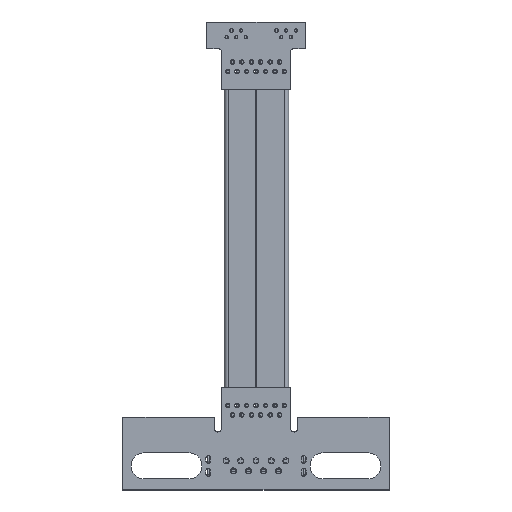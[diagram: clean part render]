
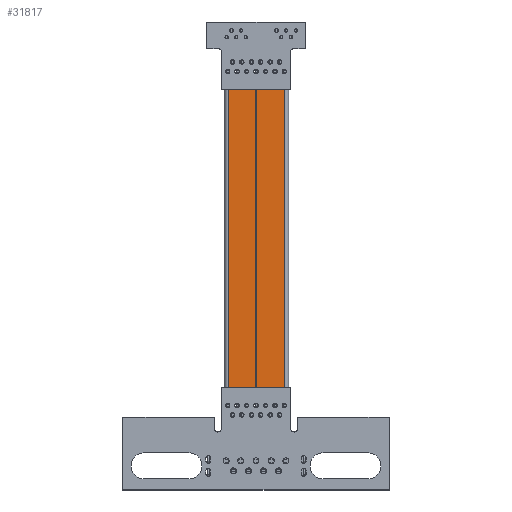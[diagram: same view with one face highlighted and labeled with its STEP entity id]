
A CAD part, top view. The second image highlights one B-rep face of the part: STEP entity #31817.
In plain terms, the highlighted planar face has unit normal (0, 0, 1) as drawn and (0, -1, 0) by its records, which use the part's own axes.
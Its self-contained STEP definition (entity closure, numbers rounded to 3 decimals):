
#31364 = EDGE_CURVE('',#31365,#31367,#31369,.T.);
#31365 = VERTEX_POINT('',#31366);
#31366 = CARTESIAN_POINT('',(-7.621,-1.201,43.));
#31367 = VERTEX_POINT('',#31368);
#31368 = CARTESIAN_POINT('',(-0.001,-1.201,43.));
#31369 = LINE('',#31370,#31371);
#31370 = CARTESIAN_POINT('',(-0.001,-1.201,43.));
#31371 = VECTOR('',#31372,1.);
#31372 = DIRECTION('',(1.,0.,0.));
#31550 = VERTEX_POINT('',#31551);
#31551 = CARTESIAN_POINT('',(-0.001,-1.201,
    0.));
#31560 = EDGE_CURVE('',#31561,#31550,#31563,.T.);
#31561 = VERTEX_POINT('',#31562);
#31562 = CARTESIAN_POINT('',(-7.621,-1.201,0.));
#31563 = LINE('',#31564,#31565);
#31564 = CARTESIAN_POINT('',(-0.001,-1.201,
    0.));
#31565 = VECTOR('',#31566,1.);
#31566 = DIRECTION('',(1.,0.,0.));
#31800 = EDGE_CURVE('',#31550,#31367,#31801,.T.);
#31801 = LINE('',#31802,#31803);
#31802 = CARTESIAN_POINT('',(-0.001,-1.201,
    0.));
#31803 = VECTOR('',#31804,1.);
#31804 = DIRECTION('',(0.,0.,1.));
#31817 = ADVANCED_FACE('',(#31818),#31829,.T.);
#31818 = FACE_BOUND('',#31819,.T.);
#31819 = EDGE_LOOP('',(#31820,#31821,#31827,#31828));
#31820 = ORIENTED_EDGE('',*,*,#31364,.F.);
#31821 = ORIENTED_EDGE('',*,*,#31822,.F.);
#31822 = EDGE_CURVE('',#31561,#31365,#31823,.T.);
#31823 = LINE('',#31824,#31825);
#31824 = CARTESIAN_POINT('',(-7.621,-1.201,0.));
#31825 = VECTOR('',#31826,1.);
#31826 = DIRECTION('',(0.,0.,1.));
#31827 = ORIENTED_EDGE('',*,*,#31560,.T.);
#31828 = ORIENTED_EDGE('',*,*,#31800,.T.);
#31829 = PLANE('',#31830);
#31830 = AXIS2_PLACEMENT_3D('',#31831,#31832,#31833);
#31831 = CARTESIAN_POINT('',(-0.001,-1.201,
    0.));
#31832 = DIRECTION('',(0.,-1.,0.));
#31833 = DIRECTION('',(0.,0.,-1.));
